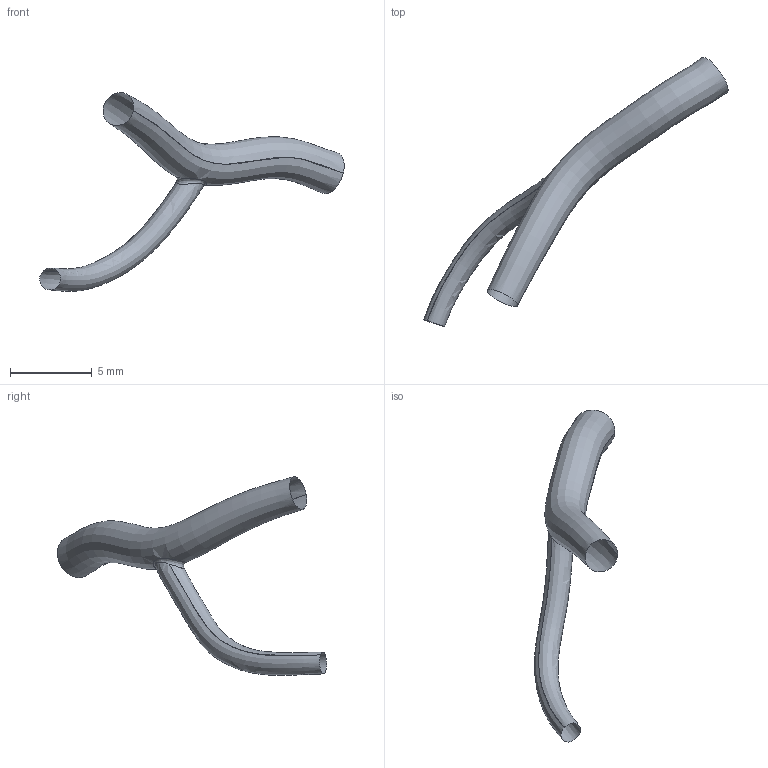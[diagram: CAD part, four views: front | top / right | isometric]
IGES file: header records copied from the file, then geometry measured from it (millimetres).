
Global section: file name: C:\Documents and Settings\Administrator\Desktop\FDA-Pig\Domestic LCA\Pig_000010\om.ed.igs; native system: Rhinoceros ( May 19 2006 ); preprocessor: Trout Lake IGES 012 May 19 2006; date: 111205.183829; units: centimetre
Bounding box: 18.56 x 16.42 x 12.12 mm (x, y, z)
Surface area: 220.1 mm2 (no closed solid volume)
Topology: 0 solids, 0 shells, 3 faces, 38 edges, 35 vertices
Faces by surface type: bspline 3
